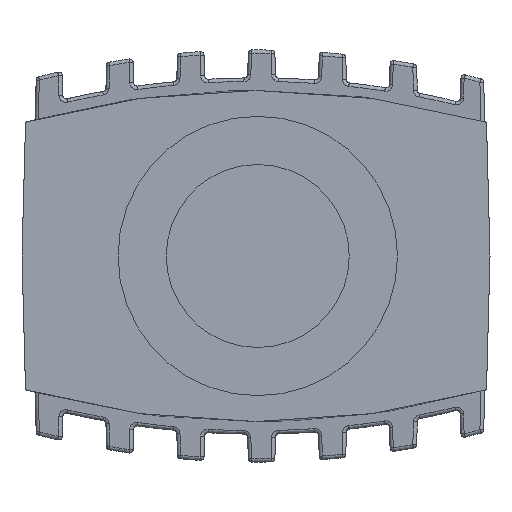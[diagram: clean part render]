
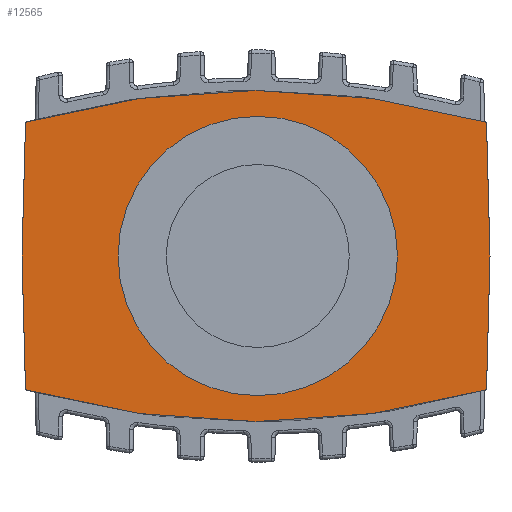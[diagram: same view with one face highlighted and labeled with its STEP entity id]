
A CAD part, front view. The second image highlights one B-rep face of the part: STEP entity #12565.
In plain terms, the highlighted planar face has unit normal (0, -1, 0).
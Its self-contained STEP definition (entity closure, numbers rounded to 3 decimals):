
#9007=CARTESIAN_POINT('',(32.748,0.,-19.153));
#9008=VERTEX_POINT('',#9007);
#9015=CARTESIAN_POINT('',(-33.248,0.,-19.153));
#9016=VERTEX_POINT('',#9015);
#9017=CARTESIAN_POINT('',(-0.25,0.,98.3));
#9018=DIRECTION('',(0.0,-1.0,0.0));
#9019=DIRECTION('',(-0.27,0.0,-0.963));
#9020=AXIS2_PLACEMENT_3D('',#9017,#9018,#9019);
#9021=CIRCLE('',#9020,122.);
#9022=EDGE_CURVE('',#9016,#9008,#9021,.T.);
#9049=CARTESIAN_POINT('',(18.038,0.,1.5));
#9050=VERTEX_POINT('',#9049);
#9057=CARTESIAN_POINT('',(18.038,0.,-1.5));
#9058=VERTEX_POINT('',#9057);
#9059=CARTESIAN_POINT('',(0.,0.,0.));
#9060=DIRECTION('',(0.0,1.0,0.0));
#9061=DIRECTION('',(0.997,0.0,0.083));
#9062=AXIS2_PLACEMENT_3D('',#9059,#9060,#9061);
#9063=CIRCLE('',#9062,18.1);
#9064=EDGE_CURVE('',#9058,#9050,#9063,.T.);
#12414=CARTESIAN_POINT('',(16.52,0.,-1.5));
#12415=VERTEX_POINT('',#12414);
#12422=CARTESIAN_POINT('',(16.52,0.,1.5));
#12423=VERTEX_POINT('',#12422);
#12424=CARTESIAN_POINT('',(16.52,0.,1.5));
#12425=DIRECTION('',(0.0,0.0,-1.0));
#12426=VECTOR('',#12425,3.);
#12427=LINE('',#12424,#12426);
#12428=EDGE_CURVE('',#12423,#12415,#12427,.T.);
#12491=CARTESIAN_POINT('',(18.038,0.,1.5));
#12492=DIRECTION('',(-1.0,0.0,0.0));
#12493=VECTOR('',#12492,1.517);
#12494=LINE('',#12491,#12493);
#12495=EDGE_CURVE('',#9050,#12423,#12494,.T.);
#12507=CARTESIAN_POINT('',(-0.25,0.,-4.512));
#12508=DIRECTION('',(0.0,-1.0,0.0));
#12509=DIRECTION('',(0.0,0.0,-1.0));
#12510=AXIS2_PLACEMENT_3D('',#12507,#12508,#12509);
#12511=PLANE('',#12510);
#12512=ORIENTED_EDGE('',*,*,#9022,.T.);
#12513=CARTESIAN_POINT('',(33.25,0.,0.));
#12514=VERTEX_POINT('',#12513);
#12515=CARTESIAN_POINT('',(32.748,0.,-19.153));
#12516=DIRECTION('',(0.026,0.,1.));
#12517=VECTOR('',#12516,19.159);
#12518=LINE('',#12515,#12517);
#12519=EDGE_CURVE('',#9008,#12514,#12518,.T.);
#12520=ORIENTED_EDGE('',*,*,#12519,.T.);
#12521=CARTESIAN_POINT('',(32.748,0.,19.153));
#12522=VERTEX_POINT('',#12521);
#12523=CARTESIAN_POINT('',(33.25,0.,0.));
#12524=DIRECTION('',(-0.026,0.,1.));
#12525=VECTOR('',#12524,19.159);
#12526=LINE('',#12523,#12525);
#12527=EDGE_CURVE('',#12514,#12522,#12526,.T.);
#12528=ORIENTED_EDGE('',*,*,#12527,.T.);
#12529=CARTESIAN_POINT('',(-33.248,0.,19.153));
#12530=VERTEX_POINT('',#12529);
#12531=CARTESIAN_POINT('',(-0.25,0.,-98.3));
#12532=DIRECTION('',(0.0,-1.0,0.0));
#12533=DIRECTION('',(0.27,0.0,0.963));
#12534=AXIS2_PLACEMENT_3D('',#12531,#12532,#12533);
#12535=CIRCLE('',#12534,122.);
#12536=EDGE_CURVE('',#12522,#12530,#12535,.T.);
#12537=ORIENTED_EDGE('',*,*,#12536,.T.);
#12538=CARTESIAN_POINT('',(-33.75,0.,0.));
#12539=VERTEX_POINT('',#12538);
#12540=CARTESIAN_POINT('',(-33.248,0.,19.153));
#12541=DIRECTION('',(-0.026,0.,-1.));
#12542=VECTOR('',#12541,19.159);
#12543=LINE('',#12540,#12542);
#12544=EDGE_CURVE('',#12530,#12539,#12543,.T.);
#12545=ORIENTED_EDGE('',*,*,#12544,.T.);
#12546=CARTESIAN_POINT('',(-33.75,0.,0.));
#12547=DIRECTION('',(0.026,0.,-1.));
#12548=VECTOR('',#12547,19.159);
#12549=LINE('',#12546,#12548);
#12550=EDGE_CURVE('',#12539,#9016,#12549,.T.);
#12551=ORIENTED_EDGE('',*,*,#12550,.T.);
#12552=EDGE_LOOP('',(#12512,#12520,#12528,#12537,#12545,#12551));
#12553=FACE_OUTER_BOUND('',#12552,.T.);
#12554=ORIENTED_EDGE('',*,*,#12428,.T.);
#12555=CARTESIAN_POINT('',(16.52,0.,-1.5));
#12556=DIRECTION('',(1.0,0.0,0.0));
#12557=VECTOR('',#12556,1.517);
#12558=LINE('',#12555,#12557);
#12559=EDGE_CURVE('',#12415,#9058,#12558,.T.);
#12560=ORIENTED_EDGE('',*,*,#12559,.T.);
#12561=ORIENTED_EDGE('',*,*,#9064,.T.);
#12562=ORIENTED_EDGE('',*,*,#12495,.T.);
#12563=EDGE_LOOP('',(#12554,#12560,#12561,#12562));
#12564=FACE_BOUND('',#12563,.T.);
#12565=ADVANCED_FACE('',(#12553,#12564),#12511,.T.);
